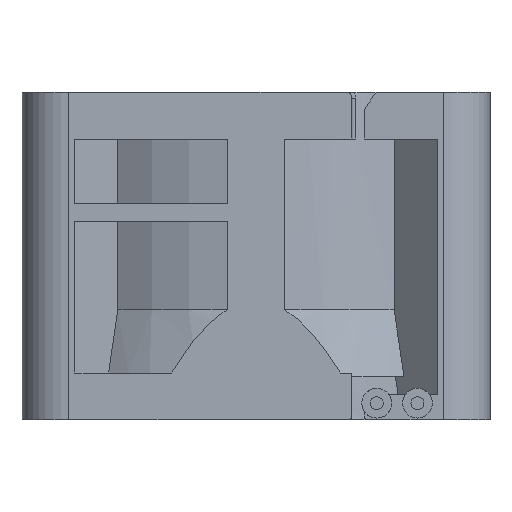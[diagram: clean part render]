
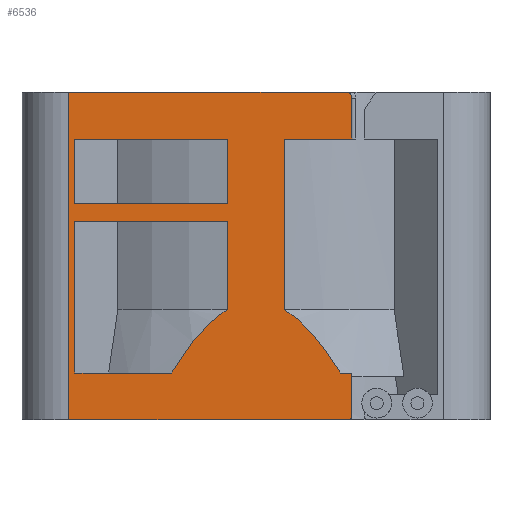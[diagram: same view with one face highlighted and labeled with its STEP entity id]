
A CAD part, front view. The second image highlights one B-rep face of the part: STEP entity #6536.
In plain terms, the highlighted planar face has unit normal (0, -1, 0).
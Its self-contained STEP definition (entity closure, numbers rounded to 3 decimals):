
#124=DIRECTION('',(1.,0.,0.));
#125=VECTOR('',#124,5.746);
#126=CARTESIAN_POINT('',(2.454,-20.,14.56));
#127=LINE('',#126,#125);
#132=DIRECTION('',(0.,0.,1.));
#133=VECTOR('',#132,3.5);
#134=CARTESIAN_POINT('',(8.2,-20.,14.56));
#135=LINE('',#134,#133);
#160=DIRECTION('',(0.,0.,1.));
#161=VECTOR('',#160,14.598);
#162=CARTESIAN_POINT('',(2.454,-20.,-0.038));
#163=LINE('',#162,#161);
#298=DIRECTION('',(-1.,0.,0.));
#299=VECTOR('',#298,23.7);
#300=CARTESIAN_POINT('',(7.7,-20.,18.56));
#301=LINE('',#300,#299);
#811=DIRECTION('',(1.,0.,0.));
#812=VECTOR('',#811,23.9);
#813=CARTESIAN_POINT('',(-16.,-20.,-9.44));
#814=LINE('',#813,#812);
#1464=CARTESIAN_POINT('',(7.9,-20.,-9.14));
#1465=DIRECTION('',(0.,1.,0.));
#1466=DIRECTION('',(1.,0.,0.));
#1467=AXIS2_PLACEMENT_3D('',#1464,#1465,#1466);
#1469=CARTESIAN_POINT('',(7.7,-20.,18.06));
#1470=DIRECTION('',(0.,1.,0.));
#1471=DIRECTION('',(0.,0.,1.));
#1472=AXIS2_PLACEMENT_3D('',#1469,#1470,#1471);
#1474=CARTESIAN_POINT('',(2.454,-20.,-0.038));
#1475=CARTESIAN_POINT('',(2.609,-20.,-0.13));
#1476=CARTESIAN_POINT('',(2.932,-20.,-0.338));
#1477=CARTESIAN_POINT('',(3.446,-20.,-0.731));
#1478=CARTESIAN_POINT('',(3.993,-20.,-1.216));
#1479=CARTESIAN_POINT('',(4.571,-20.,-1.803));
#1480=CARTESIAN_POINT('',(5.181,-20.,-2.504));
#1481=CARTESIAN_POINT('',(5.824,-20.,-3.331));
#1482=CARTESIAN_POINT('',(6.499,-20.,-4.296));
#1483=CARTESIAN_POINT('',(6.973,-20.,-5.042));
#1484=CARTESIAN_POINT('',(7.214,-20.,-5.44));
#1486=DIRECTION('',(1.,0.,0.));
#1487=VECTOR('',#1486,0.986);
#1488=CARTESIAN_POINT('',(7.214,-20.,-5.44));
#1489=LINE('',#1488,#1487);
#1490=DIRECTION('',(0.,0.,-1.));
#1491=VECTOR('',#1490,3.7);
#1492=CARTESIAN_POINT('',(8.2,-20.,-5.44));
#1493=LINE('',#1492,#1491);
#1494=DIRECTION('',(0.,0.,-1.));
#1495=VECTOR('',#1494,12.95);
#1496=CARTESIAN_POINT('',(-15.475,-20.,7.51));
#1497=LINE('',#1496,#1495);
#1498=DIRECTION('',(1.,0.,0.));
#1499=VECTOR('',#1498,8.26);
#1500=CARTESIAN_POINT('',(-15.475,-20.,-5.44));
#1501=LINE('',#1500,#1499);
#1502=CARTESIAN_POINT('',(-7.214,-20.,-5.44));
#1503=CARTESIAN_POINT('',(-6.973,-20.,-5.042));
#1504=CARTESIAN_POINT('',(-6.499,-20.,-4.297));
#1505=CARTESIAN_POINT('',(-5.824,-20.,-3.332));
#1506=CARTESIAN_POINT('',(-5.182,-20.,-2.504));
#1507=CARTESIAN_POINT('',(-4.571,-20.,-1.803));
#1508=CARTESIAN_POINT('',(-3.993,-20.,-1.215));
#1509=CARTESIAN_POINT('',(-3.446,-20.,-0.73));
#1510=CARTESIAN_POINT('',(-2.932,-20.,-0.338));
#1511=CARTESIAN_POINT('',(-2.609,-20.,-0.13));
#1512=CARTESIAN_POINT('',(-2.454,-20.,-0.038));
#1514=DIRECTION('',(0.,0.,-1.));
#1515=VECTOR('',#1514,5.55);
#1516=CARTESIAN_POINT('',(-15.475,-20.,14.56));
#1517=LINE('',#1516,#1515);
#1518=DIRECTION('',(1.,0.,0.));
#1519=VECTOR('',#1518,13.02);
#1520=CARTESIAN_POINT('',(-15.475,-20.,9.01));
#1521=LINE('',#1520,#1519);
#1526=DIRECTION('',(0.,0.,-1.));
#1527=VECTOR('',#1526,28.);
#1528=CARTESIAN_POINT('',(-16.,-20.,18.56));
#1529=LINE('',#1528,#1527);
#2569=DIRECTION('',(1.,0.,0.));
#2570=VECTOR('',#2569,13.02);
#2571=CARTESIAN_POINT('',(-15.475,-20.,7.51));
#2572=LINE('',#2571,#2570);
#2582=DIRECTION('',(0.,0.,-1.));
#2583=VECTOR('',#2582,7.548);
#2584=CARTESIAN_POINT('',(-2.454,-20.,7.51));
#2585=LINE('',#2584,#2583);
#2611=DIRECTION('',(1.,0.,0.));
#2612=VECTOR('',#2611,13.02);
#2613=CARTESIAN_POINT('',(-15.475,-20.,14.56));
#2614=LINE('',#2613,#2612);
#2624=DIRECTION('',(0.,0.,-1.));
#2625=VECTOR('',#2624,5.55);
#2626=CARTESIAN_POINT('',(-2.454,-20.,14.56));
#2627=LINE('',#2626,#2625);
#3883=CARTESIAN_POINT('',(-16.,-20.,-9.44));
#3884=VERTEX_POINT('',#3883);
#3885=CARTESIAN_POINT('',(7.9,-20.,-9.44));
#3886=VERTEX_POINT('',#3885);
#3954=CARTESIAN_POINT('',(7.7,-20.,18.56));
#3955=VERTEX_POINT('',#3954);
#3956=CARTESIAN_POINT('',(-16.,-20.,18.56));
#3957=VERTEX_POINT('',#3956);
#4118=CARTESIAN_POINT('',(8.2,-20.,-9.14));
#4119=VERTEX_POINT('',#4118);
#4132=CARTESIAN_POINT('',(8.2,-20.,18.06));
#4133=VERTEX_POINT('',#4132);
#4134=CARTESIAN_POINT('',(8.2,-20.,14.56));
#4135=VERTEX_POINT('',#4134);
#4136=CARTESIAN_POINT('',(2.454,-20.,14.56));
#4137=VERTEX_POINT('',#4136);
#4138=CARTESIAN_POINT('',(2.454,-20.,-0.038));
#4139=VERTEX_POINT('',#4138);
#4140=VERTEX_POINT('',#1484);
#4141=CARTESIAN_POINT('',(8.2,-20.,-5.44));
#4142=VERTEX_POINT('',#4141);
#4143=CARTESIAN_POINT('',(-15.475,-20.,7.51));
#4144=CARTESIAN_POINT('',(-2.454,-20.,7.51));
#4145=VERTEX_POINT('',#4143);
#4146=VERTEX_POINT('',#4144);
#4147=CARTESIAN_POINT('',(-15.475,-20.,-5.44));
#4148=VERTEX_POINT('',#4147);
#4149=CARTESIAN_POINT('',(-7.214,-20.,-5.44));
#4150=VERTEX_POINT('',#4149);
#4151=VERTEX_POINT('',#1512);
#4152=CARTESIAN_POINT('',(-15.475,-20.,14.56));
#4153=CARTESIAN_POINT('',(-2.454,-20.,14.56));
#4154=VERTEX_POINT('',#4152);
#4155=VERTEX_POINT('',#4153);
#4156=CARTESIAN_POINT('',(-15.475,-20.,9.01));
#4157=VERTEX_POINT('',#4156);
#4158=CARTESIAN_POINT('',(-2.454,-20.,9.01));
#4159=VERTEX_POINT('',#4158);
#6491=CARTESIAN_POINT('',(20.,-20.,18.56));
#6492=DIRECTION('',(0.,1.,0.));
#6493=DIRECTION('',(-1.,0.,0.));
#6494=AXIS2_PLACEMENT_3D('',#6491,#6492,#6493);
#6495=PLANE('',#6494);
#6496=ORIENTED_EDGE('',*,*,#6484,.T.);
#6497=ORIENTED_EDGE('',*,*,#5521,.F.);
#6499=ORIENTED_EDGE('',*,*,#6498,.F.);
#6500=ORIENTED_EDGE('',*,*,#4701,.F.);
#6502=ORIENTED_EDGE('',*,*,#6501,.T.);
#6503=ORIENTED_EDGE('',*,*,#4559,.F.);
#6504=ORIENTED_EDGE('',*,*,#4546,.F.);
#6505=ORIENTED_EDGE('',*,*,#4682,.F.);
#6507=ORIENTED_EDGE('',*,*,#6506,.T.);
#6509=ORIENTED_EDGE('',*,*,#6508,.T.);
#6511=ORIENTED_EDGE('',*,*,#6510,.T.);
#6512=EDGE_LOOP('',(#6496,#6497,#6499,#6500,#6502,#6503,#6504,#6505,#6507,#6509,
#6511));
#6513=FACE_OUTER_BOUND('',#6512,.F.);
#6515=ORIENTED_EDGE('',*,*,#6514,.F.);
#6517=ORIENTED_EDGE('',*,*,#6516,.T.);
#6519=ORIENTED_EDGE('',*,*,#6518,.T.);
#6521=ORIENTED_EDGE('',*,*,#6520,.T.);
#6523=ORIENTED_EDGE('',*,*,#6522,.F.);
#6524=EDGE_LOOP('',(#6515,#6517,#6519,#6521,#6523));
#6525=FACE_BOUND('',#6524,.F.);
#6527=ORIENTED_EDGE('',*,*,#6526,.F.);
#6529=ORIENTED_EDGE('',*,*,#6528,.T.);
#6531=ORIENTED_EDGE('',*,*,#6530,.T.);
#6533=ORIENTED_EDGE('',*,*,#6532,.F.);
#6534=EDGE_LOOP('',(#6527,#6529,#6531,#6533));
#6535=FACE_BOUND('',#6534,.F.);
#6536=ADVANCED_FACE('',(#6513,#6525,#6535),#6495,.F.);
#1468=CIRCLE('',#1467,0.3);
#1473=CIRCLE('',#1472,0.5);
#1485=B_SPLINE_CURVE_WITH_KNOTS('',3,(#1474,#1475,#1476,#1477,#1478,#1479,#1480,
#1481,#1482,#1483,#1484),.UNSPECIFIED.,.F.,.F.,(4,1,1,1,1,1,1,1,4),(0.,
0.125,0.25,0.375,0.5,0.625,0.75,0.875,1.),.UNSPECIFIED.);
#1513=B_SPLINE_CURVE_WITH_KNOTS('',3,(#1502,#1503,#1504,#1505,#1506,#1507,#1508,
#1509,#1510,#1511,#1512),.UNSPECIFIED.,.F.,.F.,(4,1,1,1,1,1,1,1,4),(0.,
0.125,0.25,0.375,0.5,0.625,0.75,0.875,1.),.UNSPECIFIED.);
#4546=EDGE_CURVE('',#4137,#4135,#127,.T.);
#4559=EDGE_CURVE('',#4135,#4133,#135,.T.);
#4682=EDGE_CURVE('',#4139,#4137,#163,.T.);
#4701=EDGE_CURVE('',#3955,#3957,#301,.T.);
#5521=EDGE_CURVE('',#3884,#3886,#814,.T.);
#6484=EDGE_CURVE('',#4119,#3886,#1468,.T.);
#6498=EDGE_CURVE('',#3957,#3884,#1529,.T.);
#6501=EDGE_CURVE('',#3955,#4133,#1473,.T.);
#6506=EDGE_CURVE('',#4139,#4140,#1485,.T.);
#6508=EDGE_CURVE('',#4140,#4142,#1489,.T.);
#6510=EDGE_CURVE('',#4142,#4119,#1493,.T.);
#6514=EDGE_CURVE('',#4145,#4146,#2572,.T.);
#6516=EDGE_CURVE('',#4145,#4148,#1497,.T.);
#6518=EDGE_CURVE('',#4148,#4150,#1501,.T.);
#6520=EDGE_CURVE('',#4150,#4151,#1513,.T.);
#6522=EDGE_CURVE('',#4146,#4151,#2585,.T.);
#6526=EDGE_CURVE('',#4154,#4155,#2614,.T.);
#6528=EDGE_CURVE('',#4154,#4157,#1517,.T.);
#6530=EDGE_CURVE('',#4157,#4159,#1521,.T.);
#6532=EDGE_CURVE('',#4155,#4159,#2627,.T.);
